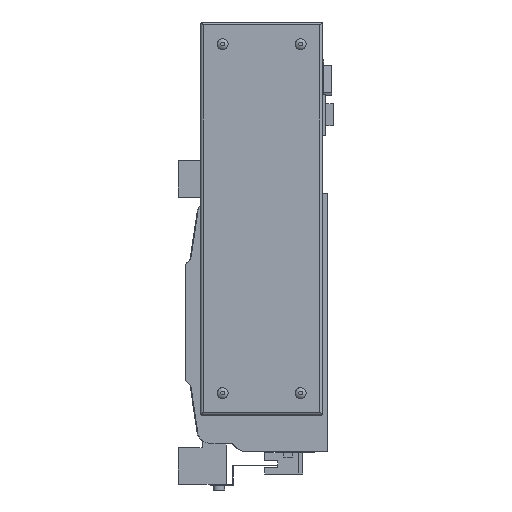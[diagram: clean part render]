
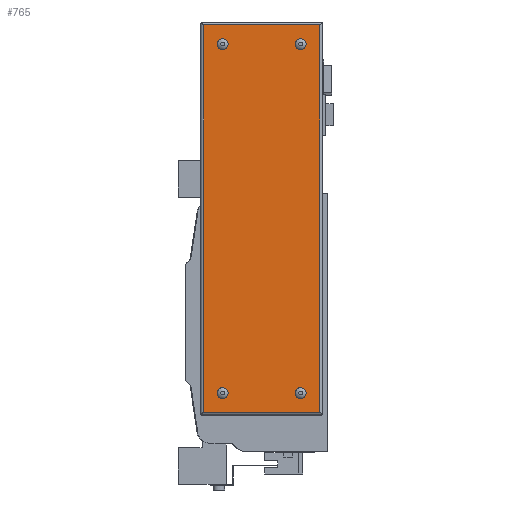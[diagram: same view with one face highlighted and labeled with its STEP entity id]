
A CAD part, left-side view. The second image highlights one B-rep face of the part: STEP entity #765.
In plain terms, the highlighted planar face has unit normal (-1, 0, 0).
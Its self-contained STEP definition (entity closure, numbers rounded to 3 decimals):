
#765 = ADVANCED_FACE( '', ( #1978, #1979, #1980, #1981, #1982 ), #1983, .F. );
#1978 = FACE_BOUND( '', #3881, .T. );
#1979 = FACE_BOUND( '', #3882, .T. );
#1980 = FACE_BOUND( '', #3883, .T. );
#1981 = FACE_BOUND( '', #3884, .T. );
#1982 = FACE_OUTER_BOUND( '', #3885, .T. );
#1983 = PLANE( '', #3886 );
#3881 = EDGE_LOOP( '', ( #5820 ) );
#3882 = EDGE_LOOP( '', ( #5821 ) );
#3883 = EDGE_LOOP( '', ( #5822 ) );
#3884 = EDGE_LOOP( '', ( #5823 ) );
#3885 = EDGE_LOOP( '', ( #5824, #5825, #5826, #5827 ) );
#3886 = AXIS2_PLACEMENT_3D( '', #5828, #5829, #5830 );
#5820 = ORIENTED_EDGE( '', *, *, #10852, .F. );
#5821 = ORIENTED_EDGE( '', *, *, #10853, .F. );
#5822 = ORIENTED_EDGE( '', *, *, #10854, .F. );
#5823 = ORIENTED_EDGE( '', *, *, #10855, .F. );
#5824 = ORIENTED_EDGE( '', *, *, #10856, .F. );
#5825 = ORIENTED_EDGE( '', *, *, #10857, .F. );
#5826 = ORIENTED_EDGE( '', *, *, #10858, .T. );
#5827 = ORIENTED_EDGE( '', *, *, #10859, .T. );
#5828 = CARTESIAN_POINT( '', ( -66., 0., 0. ) );
#5829 = DIRECTION( '', ( 1., 0., 0. ) );
#5830 = DIRECTION( '', ( 0., 0., -1. ) );
#10852 = EDGE_CURVE( '', #12853, #12853, #12854, .F. );
#10853 = EDGE_CURVE( '', #12855, #12855, #12856, .F. );
#10854 = EDGE_CURVE( '', #12857, #12857, #12858, .F. );
#10855 = EDGE_CURVE( '', #12859, #12859, #12860, .F. );
#10856 = EDGE_CURVE( '', #12861, #12862, #12863, .T. );
#10857 = EDGE_CURVE( '', #12864, #12861, #12865, .T. );
#10858 = EDGE_CURVE( '', #12864, #12866, #12867, .T. );
#10859 = EDGE_CURVE( '', #12866, #12862, #12868, .T. );
#12853 = VERTEX_POINT( '', #15821 );
#12854 = CIRCLE( '', #15822, 3.7 );
#12855 = VERTEX_POINT( '', #15823 );
#12856 = CIRCLE( '', #15824, 3.7 );
#12857 = VERTEX_POINT( '', #15825 );
#12858 = CIRCLE( '', #15826, 3.7 );
#12859 = VERTEX_POINT( '', #15827 );
#12860 = CIRCLE( '', #15828, 3.7 );
#12861 = VERTEX_POINT( '', #15829 );
#12862 = VERTEX_POINT( '', #15830 );
#12863 = LINE( '', #15831, #15832 );
#12864 = VERTEX_POINT( '', #15833 );
#12865 = LINE( '', #15834, #15835 );
#12866 = VERTEX_POINT( '', #15836 );
#12867 = LINE( '', #15837, #15838 );
#12868 = LINE( '', #15839, #15840 );
#15821 = CARTESIAN_POINT( '', ( -66., 18.5, 185.3 ) );
#15822 = AXIS2_PLACEMENT_3D( '', #19753, #19754, #19755 );
#15823 = CARTESIAN_POINT( '', ( -66., 18.5, -51.7 ) );
#15824 = AXIS2_PLACEMENT_3D( '', #19756, #19757, #19758 );
#15825 = CARTESIAN_POINT( '', ( -66., 71.5, 185.3 ) );
#15826 = AXIS2_PLACEMENT_3D( '', #19759, #19760, #19761 );
#15827 = CARTESIAN_POINT( '', ( -66., 71.5, -51.7 ) );
#15828 = AXIS2_PLACEMENT_3D( '', #19762, #19763, #19764 );
#15829 = CARTESIAN_POINT( '', ( -66., 5.5, 202. ) );
#15830 = CARTESIAN_POINT( '', ( -66., 5.5, -61. ) );
#15831 = CARTESIAN_POINT( '', ( -66., 5.5, 267. ) );
#15832 = VECTOR( '', #19765, 1000. );
#15833 = CARTESIAN_POINT( '', ( -66., 84.5, 202. ) );
#15834 = CARTESIAN_POINT( '', ( -66., 267., 202. ) );
#15835 = VECTOR( '', #19766, 1000. );
#15836 = CARTESIAN_POINT( '', ( -66., 84.5, -61. ) );
#15837 = CARTESIAN_POINT( '', ( -66., 84.5, 267. ) );
#15838 = VECTOR( '', #19767, 1000. );
#15839 = CARTESIAN_POINT( '', ( -66., 267., -61. ) );
#15840 = VECTOR( '', #19768, 1000. );
#19753 = CARTESIAN_POINT( '', ( -66., 18.5, 189. ) );
#19754 = DIRECTION( '', ( 1., 0., 0. ) );
#19755 = DIRECTION( '', ( 0., 0., -1. ) );
#19756 = CARTESIAN_POINT( '', ( -66., 18.5, -48. ) );
#19757 = DIRECTION( '', ( 1., 0., 0. ) );
#19758 = DIRECTION( '', ( 0., 0., -1. ) );
#19759 = CARTESIAN_POINT( '', ( -66., 71.5, 189. ) );
#19760 = DIRECTION( '', ( 1., 0., 0. ) );
#19761 = DIRECTION( '', ( 0., 0., -1. ) );
#19762 = CARTESIAN_POINT( '', ( -66., 71.5, -48. ) );
#19763 = DIRECTION( '', ( 1., 0., 0. ) );
#19764 = DIRECTION( '', ( 0., 0., -1. ) );
#19765 = DIRECTION( '', ( 0., 0., -1. ) );
#19766 = DIRECTION( '', ( 0., -1., 0. ) );
#19767 = DIRECTION( '', ( 0., 0., -1. ) );
#19768 = DIRECTION( '', ( 0., -1., 0. ) );
